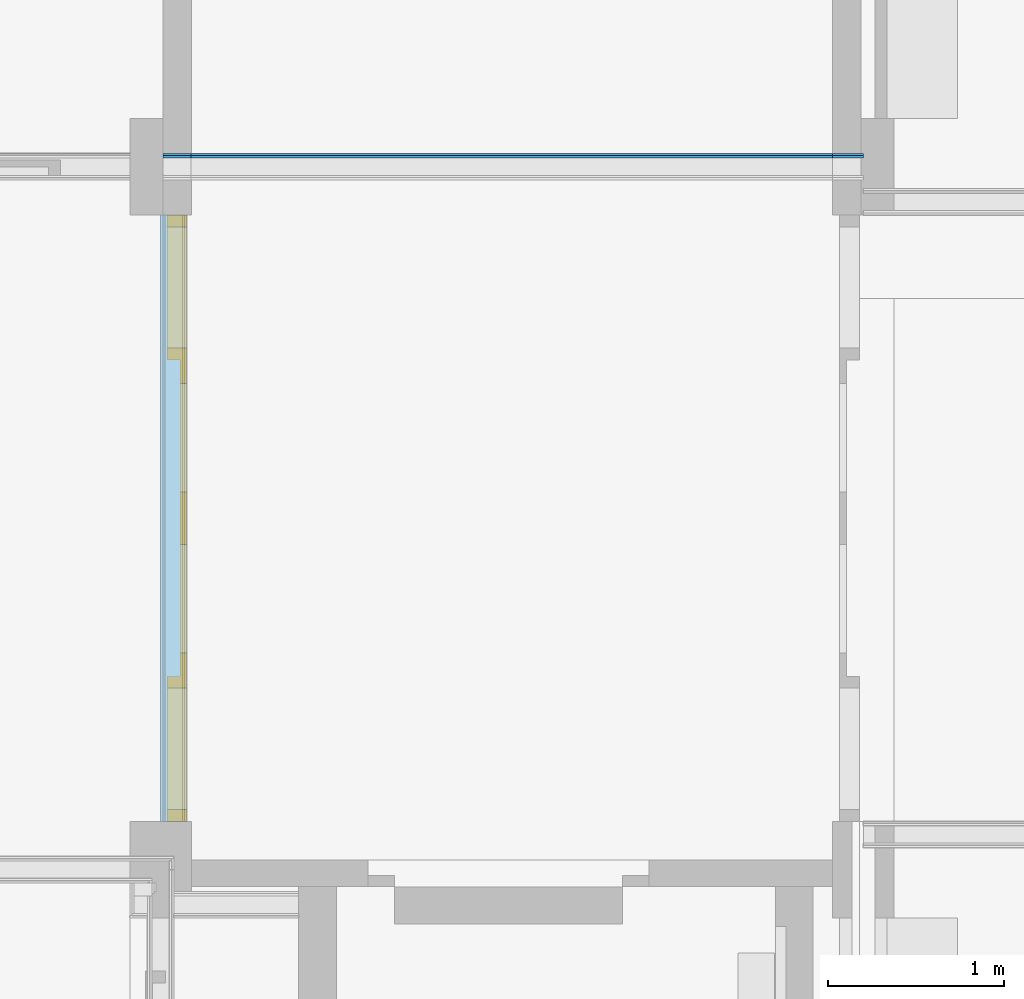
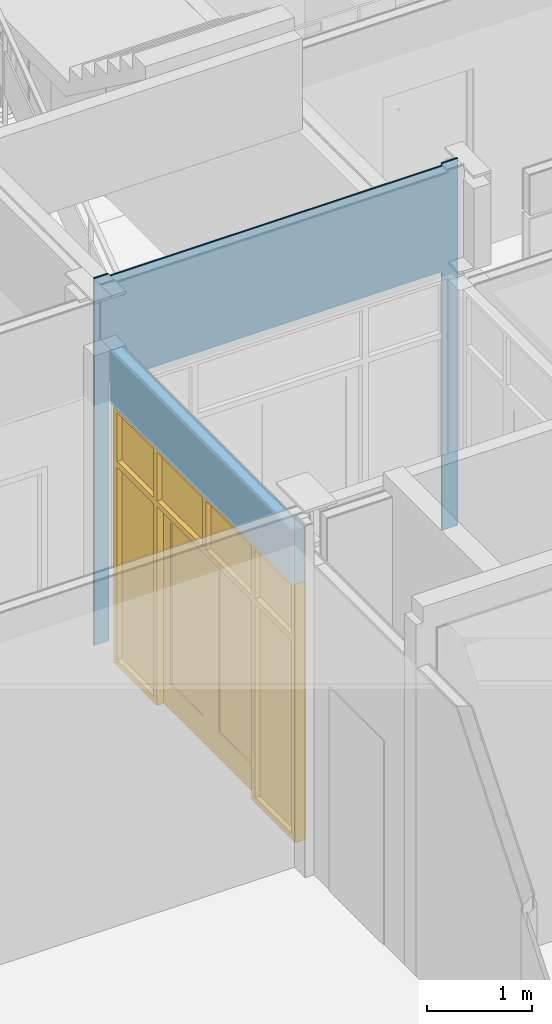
# One storey, part 66 of 109: 2 building element parts, 1 door, 2 openings, 2 elements without a shape of their own, plus 5 elements that do not belong to this part.
"""IFC2X3 building model written with IfcOpenShell, lengths in millimetres."""

from ifc_helpers import new_model, entity, si_unit, converted_unit, derived_unit, money_unit, direction, frame, origin_with_axes, place, context, subcontext, project, spatial, open_shell, faceted_brep, surface_model, material, type_object, element, fill, aggregate, save


model = new_model("IFC2X3")

# Units and contexts
model_context = context("Model", 3, precision=0.01, world=origin_with_axes(), true_north=direction((0.0, 1.0)))
body_context = subcontext(model_context, "Body", "Model", "MODEL_VIEW")
ifc_project = project(units=[si_unit("LENGTHUNIT", "METRE", prefix="MILLI"), si_unit("AREAUNIT", "SQUARE_METRE"), si_unit("VOLUMEUNIT", "CUBIC_METRE"), converted_unit("PLANEANGLEUNIT", "DEGREE", entity("IfcPlaneAngleMeasure", 0.0174532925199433), si_unit("PLANEANGLEUNIT", "RADIAN"), dimensions=[0, 0, 0, 0, 0, 0, 0]), money_unit("EUR"), converted_unit("TIMEUNIT", "Year", entity("IfcTimeMeasure", 31557600.0), si_unit("TIMEUNIT", "SECOND"), dimensions=[0, 0, 1, 0, 0, 0, 0]), si_unit("MASSUNIT", "GRAM", prefix="KILO"), si_unit("THERMODYNAMICTEMPERATUREUNIT", "DEGREE_CELSIUS"), si_unit("LUMINOUSINTENSITYUNIT", "LUMEN"), si_unit("ENERGYUNIT", "JOULE", prefix="MEGA"), derived_unit("THERMALCONDUCTANCEUNIT", [(si_unit("POWERUNIT", "WATT"), 1), (si_unit("LENGTHUNIT", "METRE"), -1), (si_unit("THERMODYNAMICTEMPERATUREUNIT", "KELVIN"), -1)]), derived_unit("SPECIFICHEATCAPACITYUNIT", [(si_unit("ENERGYUNIT", "JOULE"), 1), (si_unit("MASSUNIT", "GRAM", prefix="KILO"), -1), (si_unit("THERMODYNAMICTEMPERATUREUNIT", "KELVIN"), -1)]), derived_unit("MASSDENSITYUNIT", [(si_unit("MASSUNIT", "GRAM", prefix="KILO"), 1), (si_unit("VOLUMEUNIT", "CUBIC_METRE"), -1)])], contexts=[model_context])

# Site, building, storey
site_placement = place(None, origin_with_axes())
site = spatial("IfcSite", under=ifc_project, at=site_placement, Name="<site naam>", CompositionType="ELEMENT")
building_placement = place(site_placement, origin_with_axes())
building = spatial("IfcBuilding", under=site, at=building_placement, Name="<Naam gebouw>", CompositionType="ELEMENT")
storey_placement = place(building_placement, origin_with_axes())
storey = spatial("IfcBuildingStorey", under=building, at=storey_placement, Name="00 Begane grond", CompositionType="ELEMENT", Elevation=0.0)

# Door
door_style = type_object("IfcDoorStyle", Name="D2 bl zl2 27", ConstructionType="NOTDEFINED", OperationType="USERDEFINED", ParameterTakesPrecedence=False, Sizeable=False)
wall_1_placement = place(storey_placement, frame((48000.00000000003, 8275.000000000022, 0.0), z_axis=(0.0, 0.0, 1.0), x_axis=(0.0, 1.0, 0.0)))
opening_1_placement = place(wall_1_placement, frame((1725.0, 0.0, 0.0), z_axis=(0.0, 0.0, 1.0), x_axis=(1.0, 0.0, 0.0)))
door_placement = place(opening_1_placement, frame((1724.999999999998, 0.0, 0.0), z_axis=(0.0, 0.0, 1.0), x_axis=(-1.0, 0.0, 0.0)))
door = element("IfcDoor", 1, at=door_placement, inside=storey, type_object=door_style, Name="22_BI-D-03_305", ObjectType="DOOR", OverallHeight=3000.0, OverallWidth=3450.0, context=body_context, shape_type="SurfaceModel", body=[
    faceted_brep([(0.0, 149.9999999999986, 0.0), (67.00000000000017, 149.9999999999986, 0.0), (67.00000000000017, 36.00000000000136, 0.0), (0.0, 36.00000000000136, 0.0), (0.0, 149.9999999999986, 2933.0), (67.00000000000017, 149.9999999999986, 2933.0), (67.00000000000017, 149.9999999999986, 2367.0), (67.00000000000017, 149.9999999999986, 2300.0), (67.00000000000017, 149.9999999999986, 67.0), (67.00000000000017, 36.00000000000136, 66.99999999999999), (67.00000000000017, 36.00000000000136, 2300.0), (67.00000000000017, 36.00000000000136, 2367.0), (67.00000000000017, 36.00000000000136, 2933.0), (0.0, 36.00000000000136, 2933.0)], [[[0, 1, 2, 3]], [[0, 4, 5, 6, 7, 8, 1]], [[1, 8, 9, 2]], [[3, 2, 9, 10, 11, 12, 13]], [[4, 0, 3, 13]], [[5, 4, 13, 12]], [[6, 5, 12, 11]], [[7, 6, 11, 10]], [[8, 7, 10, 9]]]),
    faceted_brep([(824.9999999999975, 109.9999999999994, 2317.0), (824.9999999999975, 149.9999999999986, 2317.0), (824.9999999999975, 149.9999999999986, 2367.0), (824.9999999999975, 36.00000000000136, 2367.0), (824.9999999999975, 36.00000000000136, 2300.0), (824.9999999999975, 109.9999999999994, 2300.0), (807.9999999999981, 109.9999999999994, 2317.0), (807.9999999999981, 149.9999999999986, 2317.0), (807.9999999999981, 149.9999999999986, 0.0), (757.9999999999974, 149.9999999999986, 0.0), (757.9999999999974, 149.9999999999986, 66.99999999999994), (757.9999999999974, 149.9999999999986, 2300.0), (757.9999999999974, 149.9999999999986, 2367.0), (757.9999999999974, 149.9999999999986, 2933.0), (824.9999999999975, 149.9999999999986, 2933.0), (824.9999999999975, 36.00000000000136, 2933.0), (757.9999999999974, 36.00000000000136, 2933.0), (757.9999999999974, 36.00000000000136, 2367.0), (757.9999999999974, 36.00000000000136, 2300.0), (757.9999999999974, 36.00000000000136, 66.99999999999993), (757.9999999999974, 36.00000000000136, 0.0), (824.9999999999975, 36.00000000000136, 0.0), (824.9999999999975, 109.9999999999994, 0.0), (807.9999999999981, 109.9999999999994, 0.0)], [[[0, 1, 2, 3, 4, 5]], [[1, 0, 6, 7]], [[7, 8, 9, 10, 11, 12, 13, 14, 2, 1]], [[14, 15, 3, 2]], [[4, 3, 15, 16, 17, 18, 19, 20, 21]], [[22, 5, 4, 21]], [[0, 5, 22, 23, 6]], [[8, 7, 6, 23]], [[23, 22, 21, 20, 9, 8]], [[9, 20, 19, 10]], [[10, 19, 18, 11]], [[11, 18, 17, 12]], [[12, 17, 16, 13]], [[13, 16, 15, 14]]]),
    faceted_brep([(67.00000000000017, 149.9999999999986, 67.0), (67.00000000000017, 149.9999999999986, 0.0), (67.00000000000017, 36.00000000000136, 0.0), (67.00000000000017, 36.00000000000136, 66.99999999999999), (757.9999999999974, 149.9999999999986, 67.0), (757.9999999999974, 149.9999999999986, 0.0), (757.9999999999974, 36.00000000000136, 0.0), (757.9999999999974, 36.00000000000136, 66.99999999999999)], [[[0, 1, 2, 3]], [[0, 4, 5, 1]], [[1, 5, 6, 2]], [[3, 2, 6, 7]], [[4, 0, 3, 7]], [[5, 4, 7, 6]]]),
    faceted_brep([(3449.999999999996, 149.9999999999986, 0.0), (3449.999999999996, 149.9999999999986, 2933.0), (3449.999999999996, 36.00000000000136, 2933.0), (3449.999999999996, 36.00000000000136, 0.0), (3382.999999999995, 149.9999999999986, 0.0), (3382.999999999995, 149.9999999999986, 67.0), (3382.999999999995, 149.9999999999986, 2300.0), (3382.999999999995, 149.9999999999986, 2367.0), (3382.999999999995, 149.9999999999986, 2933.0), (3382.999999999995, 36.00000000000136, 2933.0), (3382.999999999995, 36.00000000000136, 2367.0), (3382.999999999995, 36.00000000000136, 2300.0), (3382.999999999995, 36.00000000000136, 66.99999999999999), (3382.999999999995, 36.00000000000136, 0.0)], [[[0, 1, 2, 3]], [[0, 4, 5, 6, 7, 8, 1]], [[1, 8, 9, 2]], [[3, 2, 9, 10, 11, 12, 13]], [[4, 0, 3, 13]], [[5, 4, 13, 12]], [[6, 5, 12, 11]], [[7, 6, 11, 10]], [[8, 7, 10, 9]]]),
    faceted_brep([(2641.999999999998, 149.9999999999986, 2317.0), (2624.999999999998, 149.9999999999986, 2317.0), (2624.999999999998, 149.9999999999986, 2367.0), (2624.999999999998, 149.9999999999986, 2933.0), (2691.999999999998, 149.9999999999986, 2933.0), (2691.999999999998, 149.9999999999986, 2367.0), (2691.999999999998, 149.9999999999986, 2300.0), (2691.999999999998, 149.9999999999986, 66.99999999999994), (2691.999999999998, 149.9999999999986, 0.0), (2641.999999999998, 149.9999999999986, 0.0), (2641.999999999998, 109.9999999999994, 2317.0), (2624.999999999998, 109.9999999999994, 2317.0), (2624.999999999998, 109.9999999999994, 2300.0), (2624.999999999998, 36.00000000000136, 2300.0), (2624.999999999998, 36.00000000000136, 2367.0), (2624.999999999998, 36.00000000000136, 2933.0), (2691.999999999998, 36.00000000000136, 2933.0), (2691.999999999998, 36.00000000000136, 2367.0), (2691.999999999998, 36.00000000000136, 2300.0), (2691.999999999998, 36.00000000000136, 66.99999999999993), (2691.999999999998, 36.00000000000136, 0.0), (2641.999999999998, 109.9999999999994, 0.0), (2624.999999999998, 36.00000000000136, 0.0), (2624.999999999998, 109.9999999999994, 0.0)], [[[0, 1, 2, 3, 4, 5, 6, 7, 8, 9]], [[1, 0, 10, 11]], [[11, 12, 13, 14, 2, 1]], [[2, 14, 15, 3]], [[3, 15, 16, 4]], [[4, 16, 17, 5]], [[5, 17, 18, 6]], [[6, 18, 19, 7]], [[7, 19, 20, 8]], [[21, 9, 8, 20, 22, 23]], [[0, 9, 21, 10]], [[21, 23, 12, 11, 10]], [[12, 23, 22, 13]], [[19, 18, 17, 16, 15, 14, 13, 22, 20]]]),
    faceted_brep([(2691.999999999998, 149.9999999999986, 67.0), (2691.999999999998, 149.9999999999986, 0.0), (2691.999999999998, 36.00000000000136, 0.0), (2691.999999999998, 36.00000000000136, 66.99999999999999), (3382.999999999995, 149.9999999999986, 67.0), (3382.999999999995, 149.9999999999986, 0.0), (3382.999999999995, 36.00000000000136, 0.0), (3382.999999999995, 36.00000000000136, 66.99999999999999)], [[[0, 1, 2, 3]], [[0, 4, 5, 1]], [[1, 5, 6, 2]], [[3, 2, 6, 7]], [[4, 0, 3, 7]], [[5, 4, 7, 6]]]),
    faceted_brep([(0.0, 149.9999999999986, 3000.0), (0.0, 149.9999999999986, 2933.0), (0.0, 36.00000000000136, 2933.0), (0.0, 36.00000000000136, 3000.0), (3449.999999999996, 149.9999999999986, 3000.0), (3449.999999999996, 149.9999999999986, 2933.0), (3382.999999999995, 149.9999999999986, 2933.0), (2691.999999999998, 149.9999999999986, 2933.0), (2624.999999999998, 149.9999999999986, 2933.0), (824.9999999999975, 149.9999999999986, 2933.0), (757.9999999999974, 149.9999999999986, 2933.0), (67.00000000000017, 149.9999999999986, 2933.0), (67.00000000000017, 36.00000000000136, 2933.0), (757.9999999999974, 36.00000000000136, 2933.0), (824.9999999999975, 36.00000000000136, 2933.0), (2624.999999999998, 36.00000000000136, 2933.0), (2691.999999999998, 36.00000000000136, 2933.0), (3382.999999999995, 36.00000000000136, 2933.0), (3449.999999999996, 36.00000000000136, 2933.0), (3449.999999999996, 36.00000000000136, 3000.0)], [[[0, 1, 2, 3]], [[0, 4, 5, 6, 7, 8, 9, 10, 11, 1]], [[1, 11, 12, 2]], [[3, 2, 12, 13, 14, 15, 16, 17, 18, 19]], [[4, 0, 3, 19]], [[5, 4, 19, 18]], [[6, 5, 18, 17]], [[7, 6, 17, 16]], [[8, 7, 16, 15]], [[9, 8, 15, 14]], [[10, 9, 14, 13]], [[11, 10, 13, 12]]]),
    faceted_brep([(67.00000000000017, 149.9999999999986, 2300.0), (757.9999999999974, 149.9999999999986, 2300.0), (757.9999999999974, 36.00000000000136, 2300.0), (67.00000000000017, 36.00000000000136, 2300.0), (67.00000000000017, 149.9999999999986, 2367.0), (757.9999999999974, 149.9999999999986, 2367.0), (757.9999999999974, 36.00000000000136, 2367.0), (67.00000000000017, 36.00000000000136, 2367.0)], [[[0, 1, 2, 3]], [[0, 4, 5, 1]], [[1, 5, 6, 2]], [[3, 2, 6, 7]], [[4, 0, 3, 7]], [[5, 4, 7, 6]]]),
    faceted_brep([(3382.999999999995, 149.9999999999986, 2367.0), (2691.999999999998, 149.9999999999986, 2367.0), (2691.999999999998, 36.00000000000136, 2367.0), (3382.999999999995, 36.00000000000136, 2367.0), (3382.999999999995, 149.9999999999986, 2300.0), (2691.999999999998, 149.9999999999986, 2300.0), (2691.999999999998, 36.00000000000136, 2300.0), (3382.999999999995, 36.00000000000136, 2300.0)], [[[0, 1, 2, 3]], [[0, 4, 5, 1]], [[1, 5, 6, 2]], [[3, 2, 6, 7]], [[4, 0, 3, 7]], [[5, 4, 7, 6]]]),
    faceted_brep([(2624.999999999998, 109.9999999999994, 2317.0), (2624.999999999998, 149.9999999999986, 2317.0), (2624.999999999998, 149.9999999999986, 2367.0), (2624.999999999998, 36.00000000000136, 2367.0), (2624.999999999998, 36.00000000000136, 2300.0), (2624.999999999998, 109.9999999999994, 2300.0), (824.9999999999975, 109.9999999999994, 2317.0), (824.9999999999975, 149.9999999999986, 2317.0), (824.9999999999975, 149.9999999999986, 2367.0), (824.9999999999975, 36.00000000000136, 2367.0), (824.9999999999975, 36.00000000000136, 2300.0), (824.9999999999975, 109.9999999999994, 2300.0)], [[[0, 1, 2, 3, 4, 5]], [[1, 0, 6, 7]], [[1, 7, 8, 2]], [[8, 9, 3, 2]], [[10, 4, 3, 9]], [[11, 5, 4, 10]], [[0, 5, 11, 6]], [[6, 11, 10, 9, 8, 7]]]),
    faceted_brep([(2641.999999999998, 149.9999999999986, 300.0), (2641.999999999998, 109.9999999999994, 300.0), (2491.999999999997, 109.9999999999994, 300.0), (2491.999999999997, 149.9999999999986, 300.0), (2641.999999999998, 149.9999999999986, 2167.0), (2641.999999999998, 109.9999999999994, 2167.0), (2491.999999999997, 109.9999999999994, 2167.0), (2491.999999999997, 149.9999999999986, 2167.0)], [[[0, 1, 2, 3]], [[4, 5, 1, 0]], [[1, 5, 6, 2]], [[3, 2, 6, 7]], [[0, 3, 7, 4]], [[7, 6, 5, 4]]]),
    faceted_brep([(1724.999999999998, 149.9999999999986, 300.0), (1724.999999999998, 109.9999999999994, 300.0), (1724.999999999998, 109.9999999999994, 2167.0), (1724.999999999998, 149.9999999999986, 2167.0), (1874.999999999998, 149.9999999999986, 300.0), (1874.999999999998, 109.9999999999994, 300.0), (1874.999999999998, 109.9999999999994, 2167.0), (1874.999999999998, 149.9999999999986, 2167.0)], [[[0, 1, 2, 3]], [[4, 5, 1, 0]], [[1, 5, 6, 2]], [[3, 2, 6, 7]], [[0, 3, 7, 4]], [[7, 6, 5, 4]]]),
    faceted_brep([(2641.999999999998, 149.9999999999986, 0.0), (2641.999999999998, 109.9999999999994, 0.0), (1724.999999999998, 109.9999999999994, 0.0), (1724.999999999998, 149.9999999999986, 0.0), (2641.999999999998, 149.9999999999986, 300.0), (2641.999999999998, 109.9999999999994, 300.0), (2491.999999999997, 109.9999999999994, 300.0), (1874.999999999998, 109.9999999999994, 300.0), (1724.999999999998, 109.9999999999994, 300.0), (1724.999999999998, 149.9999999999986, 300.0), (1874.999999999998, 149.9999999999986, 300.0), (2491.999999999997, 149.9999999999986, 300.0)], [[[0, 1, 2, 3]], [[4, 5, 1, 0]], [[1, 5, 6, 7, 8, 2]], [[3, 2, 8, 9]], [[0, 3, 9, 10, 11, 4]], [[11, 6, 5, 4]], [[10, 7, 6, 11]], [[9, 8, 7, 10]]]),
    faceted_brep([(2641.999999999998, 149.9999999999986, 2317.0), (2641.999999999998, 109.9999999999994, 2317.0), (2641.999999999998, 109.9999999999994, 2167.0), (2641.999999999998, 149.9999999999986, 2167.0), (1724.999999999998, 149.9999999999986, 2317.0), (1724.999999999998, 109.9999999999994, 2317.0), (1724.999999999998, 109.9999999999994, 2167.0), (1874.999999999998, 109.9999999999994, 2167.0), (2491.999999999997, 109.9999999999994, 2167.0), (2491.999999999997, 149.9999999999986, 2167.0), (1874.999999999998, 149.9999999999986, 2167.0), (1724.999999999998, 149.9999999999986, 2167.0)], [[[0, 1, 2, 3]], [[4, 5, 1, 0]], [[1, 5, 6, 7, 8, 2]], [[3, 2, 8, 9]], [[0, 3, 9, 10, 11, 4]], [[11, 6, 5, 4]], [[10, 7, 6, 11]], [[9, 8, 7, 10]]]),
    surface_model("IfcShellBasedSurfaceModel", [(2491.999999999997, 135.9999999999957, 300.0), (1874.999999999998, 135.9999999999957, 300.0), (1874.999999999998, 135.9999999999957, 2167.0), (2491.999999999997, 135.9999999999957, 2167.0)], [open_shell([[[0, 1, 2, 3]]])]),
    surface_model("IfcShellBasedSurfaceModel", [(2491.999999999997, 123.9999999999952, 300.0), (2491.999999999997, 123.9999999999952, 2167.0), (1874.999999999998, 123.9999999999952, 2167.0), (1874.999999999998, 123.9999999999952, 300.0)], [open_shell([[[0, 1, 2, 3]]])]),
    faceted_brep([(807.9999999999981, 149.9999999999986, 300.0), (957.9999999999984, 149.9999999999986, 300.0), (957.9999999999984, 109.9999999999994, 300.0), (807.9999999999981, 109.9999999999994, 300.0), (807.9999999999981, 149.9999999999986, 2167.0), (957.9999999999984, 149.9999999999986, 2167.0), (957.9999999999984, 109.9999999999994, 2167.0), (807.9999999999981, 109.9999999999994, 2167.0)], [[[0, 1, 2, 3]], [[0, 4, 5, 1]], [[1, 5, 6, 2]], [[3, 2, 6, 7]], [[4, 0, 3, 7]], [[5, 4, 7, 6]]]),
    faceted_brep([(1724.999999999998, 149.9999999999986, 300.0), (1724.999999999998, 149.9999999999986, 2167.0), (1724.999999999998, 109.9999999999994, 2167.0), (1724.999999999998, 109.9999999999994, 300.0), (1574.999999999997, 149.9999999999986, 300.0), (1574.999999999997, 149.9999999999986, 2167.0), (1574.999999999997, 109.9999999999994, 2167.0), (1574.999999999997, 109.9999999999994, 300.0)], [[[0, 1, 2, 3]], [[0, 4, 5, 1]], [[1, 5, 6, 2]], [[3, 2, 6, 7]], [[4, 0, 3, 7]], [[5, 4, 7, 6]]]),
    faceted_brep([(807.9999999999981, 149.9999999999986, 0.0), (1724.999999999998, 149.9999999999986, 0.0), (1724.999999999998, 109.9999999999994, 0.0), (807.9999999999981, 109.9999999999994, 0.0), (807.9999999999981, 149.9999999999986, 300.0), (957.9999999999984, 149.9999999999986, 300.0), (1574.999999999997, 149.9999999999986, 300.0), (1724.999999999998, 149.9999999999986, 300.0), (1724.999999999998, 109.9999999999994, 300.0), (1574.999999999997, 109.9999999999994, 300.0), (957.9999999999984, 109.9999999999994, 300.0), (807.9999999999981, 109.9999999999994, 300.0)], [[[0, 1, 2, 3]], [[0, 4, 5, 6, 7, 1]], [[1, 7, 8, 2]], [[3, 2, 8, 9, 10, 11]], [[4, 0, 3, 11]], [[5, 4, 11, 10]], [[6, 5, 10, 9]], [[7, 6, 9, 8]]]),
    faceted_brep([(807.9999999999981, 149.9999999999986, 2317.0), (807.9999999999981, 149.9999999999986, 2167.0), (807.9999999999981, 109.9999999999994, 2167.0), (807.9999999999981, 109.9999999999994, 2317.0), (1724.999999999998, 149.9999999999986, 2317.0), (1724.999999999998, 149.9999999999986, 2167.0), (1574.999999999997, 149.9999999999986, 2167.0), (957.9999999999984, 149.9999999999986, 2167.0), (957.9999999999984, 109.9999999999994, 2167.0), (1574.999999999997, 109.9999999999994, 2167.0), (1724.999999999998, 109.9999999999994, 2167.0), (1724.999999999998, 109.9999999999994, 2317.0)], [[[0, 1, 2, 3]], [[0, 4, 5, 6, 7, 1]], [[1, 7, 8, 2]], [[3, 2, 8, 9, 10, 11]], [[4, 0, 3, 11]], [[5, 4, 11, 10]], [[6, 5, 10, 9]], [[7, 6, 9, 8]]]),
    surface_model("IfcShellBasedSurfaceModel", [(957.9999999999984, 135.9999999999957, 300.0), (957.9999999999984, 135.9999999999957, 2167.0), (1574.999999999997, 135.9999999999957, 2167.0), (1574.999999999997, 135.9999999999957, 300.0)], [open_shell([[[0, 1, 2, 3]]])]),
    surface_model("IfcShellBasedSurfaceModel", [(957.9999999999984, 123.9999999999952, 300.0), (1574.999999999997, 123.9999999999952, 300.0), (1574.999999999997, 123.9999999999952, 2167.0), (957.9999999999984, 123.9999999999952, 2167.0)], [open_shell([[[0, 1, 2, 3]]])]),
    surface_model("IfcShellBasedSurfaceModel", [(67.00000000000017, 89.9999999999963, 2367.0), (757.9999999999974, 89.9999999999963, 2367.0), (757.9999999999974, 89.9999999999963, 2933.0), (67.00000000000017, 89.9999999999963, 2933.0)], [open_shell([[[0, 1, 2, 3]]])]),
    surface_model("IfcShellBasedSurfaceModel", [(67.00000000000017, 101.9999999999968, 2367.0), (67.00000000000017, 101.9999999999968, 2933.0), (757.9999999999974, 101.9999999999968, 2933.0), (757.9999999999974, 101.9999999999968, 2367.0)], [open_shell([[[0, 1, 2, 3]]])]),
    surface_model("IfcShellBasedSurfaceModel", [(1691.499999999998, 89.9999999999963, 2367.0), (1691.499999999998, 89.9999999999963, 2933.0), (824.9999999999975, 89.9999999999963, 2933.0), (824.9999999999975, 89.9999999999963, 2367.0)], [open_shell([[[0, 1, 2, 3]]])]),
    surface_model("IfcShellBasedSurfaceModel", [(1691.499999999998, 101.9999999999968, 2367.0), (824.9999999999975, 101.9999999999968, 2367.0), (824.9999999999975, 101.9999999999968, 2933.0), (1691.499999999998, 101.9999999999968, 2933.0)], [open_shell([[[0, 1, 2, 3]]])]),
    surface_model("IfcShellBasedSurfaceModel", [(2624.999999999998, 89.9999999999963, 2367.0), (2624.999999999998, 89.9999999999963, 2933.0), (1758.499999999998, 89.9999999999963, 2933.0), (1758.499999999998, 89.9999999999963, 2367.0)], [open_shell([[[0, 1, 2, 3]]])]),
    surface_model("IfcShellBasedSurfaceModel", [(2624.999999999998, 101.9999999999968, 2367.0), (1758.499999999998, 101.9999999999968, 2367.0), (1758.499999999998, 101.9999999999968, 2933.0), (2624.999999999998, 101.9999999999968, 2933.0)], [open_shell([[[0, 1, 2, 3]]])]),
    faceted_brep([(1691.499999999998, 36.00000000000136, 2367.0), (1691.499999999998, 149.9999999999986, 2367.0), (1758.499999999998, 149.9999999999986, 2367.0), (1758.499999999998, 36.00000000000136, 2367.0), (1691.499999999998, 36.00000000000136, 2933.0), (1691.499999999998, 149.9999999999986, 2933.0), (1758.499999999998, 149.9999999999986, 2933.0), (1758.499999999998, 36.00000000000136, 2933.0)], [[[0, 1, 2, 3]], [[4, 5, 1, 0]], [[1, 5, 6, 2]], [[3, 2, 6, 7]], [[0, 3, 7, 4]], [[7, 6, 5, 4]]]),
    surface_model("IfcShellBasedSurfaceModel", [(2691.999999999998, 89.9999999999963, 2367.0), (3382.999999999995, 89.9999999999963, 2367.0), (3382.999999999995, 89.9999999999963, 2933.0), (2691.999999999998, 89.9999999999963, 2933.0)], [open_shell([[[0, 1, 2, 3]]])]),
    surface_model("IfcShellBasedSurfaceModel", [(2691.999999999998, 101.9999999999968, 2367.0), (2691.999999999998, 101.9999999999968, 2933.0), (3382.999999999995, 101.9999999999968, 2933.0), (3382.999999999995, 101.9999999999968, 2367.0)], [open_shell([[[0, 1, 2, 3]]])]),
    surface_model("IfcShellBasedSurfaceModel", [(67.00000000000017, 89.9999999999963, 67.0), (757.9999999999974, 89.9999999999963, 67.0), (757.9999999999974, 89.9999999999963, 2300.0), (67.00000000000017, 89.9999999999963, 2300.0)], [open_shell([[[0, 1, 2, 3]]])]),
    surface_model("IfcShellBasedSurfaceModel", [(67.00000000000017, 101.9999999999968, 67.0), (67.00000000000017, 101.9999999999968, 2300.0), (757.9999999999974, 101.9999999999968, 2300.0), (757.9999999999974, 101.9999999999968, 67.0)], [open_shell([[[0, 1, 2, 3]]])]),
    surface_model("IfcShellBasedSurfaceModel", [(2691.999999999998, 89.9999999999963, 67.0), (3382.999999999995, 89.9999999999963, 67.0), (3382.999999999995, 89.9999999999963, 2300.0), (2691.999999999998, 89.9999999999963, 2300.0)], [open_shell([[[0, 1, 2, 3]]])]),
    surface_model("IfcShellBasedSurfaceModel", [(2691.999999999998, 101.9999999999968, 67.0), (2691.999999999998, 101.9999999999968, 2300.0), (3382.999999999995, 101.9999999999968, 2300.0), (3382.999999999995, 101.9999999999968, 67.0)], [open_shell([[[0, 1, 2, 3]]])]),
])

# Wall, opening
wall_type = type_object("IfcWallType", Name="MS-01 GF 150 ECO DGS/2.100.2.A 150", PredefinedType="NOTDEFINED")
wall_1 = element("IfcWall", 2, at=wall_1_placement, inside=storey, type_object=wall_type, Name="22_Binnenwand_MS-01")
opening_1 = element("IfcOpeningElement", 3, at=opening_1_placement, cuts=wall_1, Name="22_BI-D-03_305", context=body_context, shape_type="Brep", body=[
    faceted_brep([(1724.999999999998, 0.9999999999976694, 3000.0), (1724.999999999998, 0.9999999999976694, 0.0), (-1724.999999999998, 0.9999999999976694, 0.0), (-1724.999999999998, 0.9999999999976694, 3000.0), (1724.999999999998, -150.9999999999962, 3000.0), (1724.999999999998, -150.9999999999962, 0.0), (-1724.999999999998, -150.9999999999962, 0.0), (-1724.999999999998, -150.9999999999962, 3000.0)], [[[0, 1, 2, 3]], [[4, 5, 1, 0]], [[5, 6, 2, 1]], [[6, 7, 3, 2]], [[7, 4, 0, 3]], [[6, 5, 4, 7]]]),
])

fill(opening_1, door)

# Building element part
ifc_material_1 = material(Name="gipsplaat")
building_element_part_1_placement = place(wall_1_placement, origin_with_axes())
building_element_part_1 = element("IfcBuildingElementPart", 4, at=building_element_part_1_placement, material=ifc_material_1, Name="gipsplaat", context=body_context, shape_type="Brep", body=[
    faceted_brep([(3449.999999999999, 0.0, 3620.0), (3449.999999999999, -12.50000000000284, 3620.0), (3449.999999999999, -12.50000000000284, 3040.0), (3449.999999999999, 0.0, 3040.0), (0.0, -12.50000000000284, 3620.0), (0.0, 0.0, 3620.0), (0.0, -12.50000000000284, 3040.0), (0.0, 0.0, 3040.0)], [[[0, 1, 2, 3]], [[4, 1, 0, 5]], [[1, 4, 6, 2]], [[7, 3, 2, 6]], [[5, 0, 3, 7]], [[4, 5, 7, 6]]]),
    faceted_brep([(0.0, -12.50000000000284, 3.000000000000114), (3449.999999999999, -12.50000000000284, 3.000000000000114), (3449.999999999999, -12.50000000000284, 3000.0), (0.0, -12.50000000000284, 3000.0), (3449.999999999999, 0.0, 3.000000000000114), (0.0, 0.0, 3.000000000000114), (3449.999999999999, 0.0, 3000.0), (0.0, 0.0, 3000.0)], [[[0, 1, 2, 3]], [[4, 1, 0, 5]], [[1, 4, 6, 2]], [[3, 2, 6, 7]], [[5, 0, 3, 7]], [[4, 5, 7, 6]]]),
])

building_element_part_2_placement = place(wall_1_placement, origin_with_axes())
building_element_part_2 = element("IfcBuildingElementPart", 5, at=building_element_part_2_placement, material=ifc_material_1, Name="gipsplaat", context=body_context, shape_type="Brep", body=[
    faceted_brep([(3449.999999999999, -12.50000000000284, 3620.0), (3449.999999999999, -24.99999999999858, 3620.0), (3449.999999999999, -24.99999999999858, 3.000000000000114), (3449.999999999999, -12.50000000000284, 3.000000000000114), (0.0, -24.99999999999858, 3620.0), (0.0, -12.50000000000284, 3620.0), (0.0, -24.99999999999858, 3.000000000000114), (0.0, -12.50000000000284, 3.000000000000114)], [[[0, 1, 2, 3]], [[4, 1, 0, 5]], [[1, 4, 6, 2]], [[7, 3, 2, 6]], [[5, 0, 3, 7]], [[4, 5, 7, 6]]]),
])

ifc_material_2 = material(Name="isolatie_steenwol LSW")
building_element_part_3_placement = place(wall_1_placement, origin_with_axes())
building_element_part_3 = element("IfcBuildingElementPart", 6, at=building_element_part_3_placement, material=ifc_material_2, Name="isolatie_steenwol LSW", context=body_context, shape_type="Brep", body=[
    faceted_brep([(3449.999999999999, -24.99999999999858, 3620.0), (3450.000002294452, -125.0, 3620.0), (3450.000020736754, -125.0, 3.000000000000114), (3450.000020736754, -37.38026770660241, 3.000000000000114), (3450.000020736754, -37.38026770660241, 0.0), (3450.000018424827, -36.00000000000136, 0.0), (3449.999999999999, -36.00000000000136, 3.000000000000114), (3449.999999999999, -24.99999999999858, 3.000000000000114), (0.0, -125.0, 3620.0), (0.0, -24.99999999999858, 3620.0), (0.0, -125.0, 3.000000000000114), (0.0, -37.38026770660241, 3.000000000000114), (0.0, -37.38026770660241, 0.0), (0.0, -36.00000000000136, 0.0), (0.0, -36.00000000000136, 3.000000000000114), (0.0, -24.99999999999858, 3.000000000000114)], [[[0, 1, 2, 3, 4, 5, 6, 7]], [[8, 1, 0, 9]], [[1, 8, 10, 2]], [[11, 3, 2, 10]], [[12, 4, 3, 11]], [[12, 13, 5, 4]], [[14, 6, 5, 13]], [[15, 7, 6, 14]], [[9, 0, 7, 15]], [[8, 9, 15, 14, 13, 12, 11, 10]]]),
])

building_element_part_4_placement = place(wall_1_placement, origin_with_axes())
building_element_part_4 = element("IfcBuildingElementPart", 7, at=building_element_part_4_placement, material=ifc_material_1, Name="gipsplaat", context=body_context, shape_type="Brep", body=[
    faceted_brep([(3450.000002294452, -125.0, 3620.0), (3450.000002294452, -137.5000000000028, 3620.0), (3450.000020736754, -137.5000000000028, 3.000000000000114), (3450.000020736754, -125.0, 3.000000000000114), (0.0, -137.5000000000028, 3620.0), (0.0, -125.0, 3620.0), (0.0, -137.5000000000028, 3.000000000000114), (0.0, -125.0, 3.000000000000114)], [[[0, 1, 2, 3]], [[4, 1, 0, 5]], [[1, 4, 6, 2]], [[7, 3, 2, 6]], [[5, 0, 3, 7]], [[4, 5, 7, 6]]]),
])

building_element_part_5_placement = place(wall_1_placement, origin_with_axes())
building_element_part_5 = element("IfcBuildingElementPart", 8, at=building_element_part_5_placement, material=ifc_material_1, Name="gipsplaat", context=body_context, shape_type="Brep", body=[
    faceted_brep([(3450.000002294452, -137.5000000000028, 3620.0), (3450.000002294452, -149.9999999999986, 3620.0), (3450.000020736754, -149.9999999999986, 3.000000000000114), (3450.000020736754, -137.5000000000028, 3.000000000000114), (0.0, -149.9999999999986, 3620.0), (0.0, -137.5000000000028, 3620.0), (0.0, -149.9999999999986, 3.000000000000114), (0.0, -137.5000000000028, 3.000000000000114)], [[[0, 1, 2, 3]], [[4, 1, 0, 5]], [[1, 4, 6, 2]], [[7, 3, 2, 6]], [[5, 0, 3, 7]], [[4, 5, 7, 6]]]),
])

aggregate(wall_1, [building_element_part_1, building_element_part_2, building_element_part_3, building_element_part_4, building_element_part_5])

# Wall, opening, building element parts
wall_2_placement = place(storey_placement, frame((48015.00007716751, 11999.99999919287, 0.0), z_axis=(0.0, 0.0, 1.0), x_axis=(1.0, 2.196419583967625e-10, 0.0)))
wall_2 = element("IfcWall", 9, at=wall_2_placement, inside=storey, type_object=wall_type, Name="22_Binnenwand_MS-01")
opening_2_placement = place(wall_2_placement, frame((1984.999943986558, 0.0, 0.0), z_axis=(0.0, 0.0, 1.0), x_axis=(1.0, 0.0, 0.0)))
element("IfcOpeningElement", 10, at=opening_2_placement, cuts=wall_2, Name="22_BI-D-04_305", context=body_context, shape_type="Brep", body=[
    faceted_brep([(-1824.999978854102, -76.0000000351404, 3000.0), (-1824.999978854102, -76.0000000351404, 0.0), (1824.999978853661, -76.00000083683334, 0.0), (1824.999978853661, -76.00000083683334, 3000.0), (-1824.999978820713, 76.00000084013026, 3000.0), (-1824.999978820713, 76.00000084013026, 0.0), (1824.99997888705, 76.00000003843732, 0.0), (1824.99997888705, 76.00000003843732, 3000.0)], [[[0, 1, 2, 3]], [[4, 5, 1, 0]], [[5, 6, 2, 1]], [[6, 7, 3, 2]], [[7, 4, 0, 3]], [[6, 5, 4, 7]]]),
])
building_element_part_6_placement = place(wall_2_placement, origin_with_axes())
building_element_part_6 = element("IfcBuildingElementPart", 11, at=building_element_part_6_placement, material=ifc_material_1, Name="gipsplaat", context=body_context, shape_type="Brep", body=[
    faceted_brep([(159.5777771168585, 74.99999996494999, 4220.0), (3809.999922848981, 74.99999916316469, 4220.0), (3809.999922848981, 74.99999916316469, 4250.0), (3984.999922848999, 74.99999912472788, 4250.0), (3984.999922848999, 74.99999912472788, 0.0), (1.647748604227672e-08, 74.99999999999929, 0.0), (1.647748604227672e-08, 75.00000000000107, 4250.0), (159.5777771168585, 74.99999996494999, 4250.0), (159.5777771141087, 62.49999996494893, 4220.0), (3809.999922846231, 62.49999916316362, 4220.0), (3809.999922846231, 62.49999916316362, 4250.0), (3984.999922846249, 62.49999912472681, 4250.0), (3984.999922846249, 62.49999912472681, 0.0), (1.372768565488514e-08, 62.5, 0.0), (1.372768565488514e-08, 62.5, 4250.0), (159.5777771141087, 62.49999996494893, 4250.0)], [[[0, 1, 2, 3, 4, 5, 6, 7]], [[1, 0, 8, 9]], [[10, 2, 1, 9]], [[2, 10, 11, 3]], [[12, 4, 3, 11]], [[5, 4, 12, 13]], [[6, 5, 13, 14]], [[15, 7, 6, 14]], [[0, 7, 15, 8]], [[8, 15, 14, 13, 12, 11, 10, 9]]]),
])
building_element_part_7_placement = place(wall_2_placement, origin_with_axes())
building_element_part_7 = element("IfcBuildingElementPart", 12, at=building_element_part_7_placement, material=ifc_material_1, Name="gipsplaat", context=body_context, shape_type="Brep", body=[
    faceted_brep([(159.5777771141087, 62.49999996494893, 4220.0), (3809.999922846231, 62.49999916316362, 4220.0), (3809.999922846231, 62.49999916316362, 4250.0), (3984.999922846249, 62.49999912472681, 4250.0), (3984.999922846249, 62.49999912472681, 0.0), (1.372768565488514e-08, 62.5, 0.0), (1.372768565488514e-08, 62.5, 4250.0), (159.5777771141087, 62.4999999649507, 4250.0), (159.577777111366, 49.99999996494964, 4220.0), (3809.999922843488, 49.99999916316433, 4220.0), (3809.999922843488, 49.99999916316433, 4250.0), (3984.999922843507, 49.99999912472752, 4250.0), (3984.999922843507, 49.99999912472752, 0.0), (1.098499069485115e-08, 50.00000000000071, 0.0), (1.098499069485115e-08, 50.00000000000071, 4250.0), (159.577777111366, 49.99999996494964, 4250.0)], [[[0, 1, 2, 3, 4, 5, 6, 7]], [[1, 0, 8, 9]], [[10, 2, 1, 9]], [[2, 10, 11, 3]], [[12, 4, 3, 11]], [[5, 4, 12, 13]], [[6, 5, 13, 14]], [[15, 7, 6, 14]], [[0, 7, 15, 8]], [[8, 15, 14, 13, 12, 11, 10, 9]]]),
])
aggregate(wall_2, [building_element_part_6, building_element_part_7])

save(model, "model.ifc")
